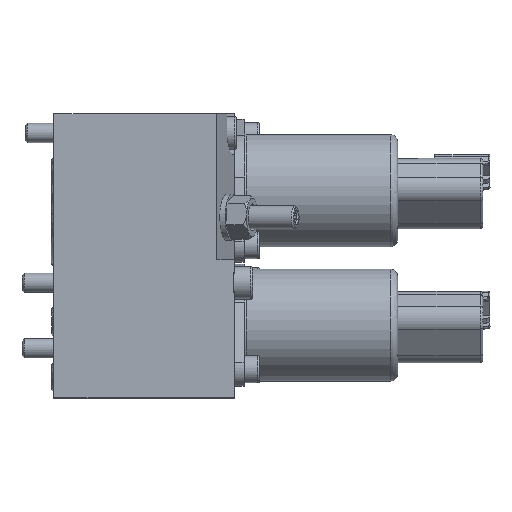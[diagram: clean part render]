
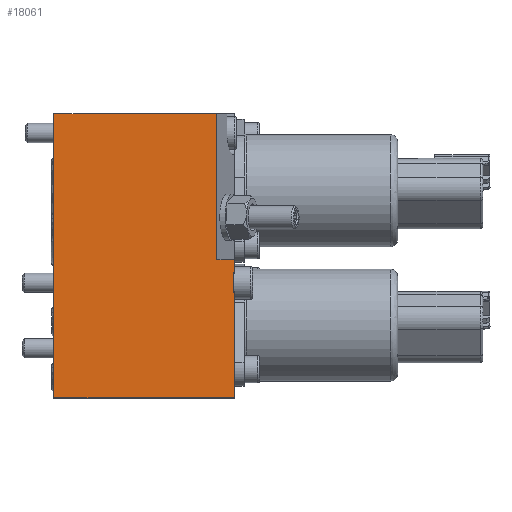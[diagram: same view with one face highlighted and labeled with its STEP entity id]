
A CAD part, top view. The second image highlights one B-rep face of the part: STEP entity #18061.
In plain terms, the highlighted planar face has unit normal (0, 0, 1).
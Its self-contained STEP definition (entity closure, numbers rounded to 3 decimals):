
#2328 = DIRECTION ( 'NONE',  ( 0., 1., 0. ) ) ;
#4084 = VECTOR ( 'NONE', #2328, 1000. ) ;
#5126 = EDGE_CURVE ( 'NONE', #20891, #33290, #46108, .T. ) ;
#6153 = EDGE_CURVE ( 'NONE', #16672, #19760, #30223, .T. ) ;
#6346 = PLANE ( 'NONE',  #16107 ) ;
#6908 = CARTESIAN_POINT ( 'NONE',  ( 47., -41.709, 54. ) ) ;
#7087 = DIRECTION ( 'NONE',  ( -1., 0., 0. ) ) ;
#7738 = VECTOR ( 'NONE', #8089, 1000. ) ;
#7844 = LINE ( 'NONE', #22783, #7738 ) ;
#8089 = DIRECTION ( 'NONE',  ( 1., 0., 0. ) ) ;
#8125 = ORIENTED_EDGE ( 'NONE', *, *, #16286, .F. ) ;
#10180 = CARTESIAN_POINT ( 'NONE',  ( 0., 0., 54. ) ) ;
#10560 = ORIENTED_EDGE ( 'NONE', *, *, #13535, .F. ) ;
#10562 = ORIENTED_EDGE ( 'NONE', *, *, #14035, .F. ) ;
#10576 = DIRECTION ( 'NONE',  ( 0., 1., 0. ) ) ;
#11042 = DIRECTION ( 'NONE',  ( 0., 1., 0. ) ) ;
#11086 = VECTOR ( 'NONE', #23797, 1000. ) ;
#11294 = ORIENTED_EDGE ( 'NONE', *, *, #12936, .F. ) ;
#12634 = VECTOR ( 'NONE', #7087, 1000. ) ;
#12742 = CARTESIAN_POINT ( 'NONE',  ( 47., -38., 54. ) ) ;
#12936 = EDGE_CURVE ( 'NONE', #21703, #29051, #46767, .T. ) ;
#13535 = EDGE_CURVE ( 'NONE', #43172, #19760, #7844, .T. ) ;
#13611 = CARTESIAN_POINT ( 'NONE',  ( 46.7, 0., 54. ) ) ;
#13735 = LINE ( 'NONE', #25480, #38079 ) ;
#13901 = DIRECTION ( 'NONE',  ( -1., 0., 0. ) ) ;
#14035 = EDGE_CURVE ( 'NONE', #29051, #43172, #46483, .T. ) ;
#14723 = CARTESIAN_POINT ( 'NONE',  ( 0., -74., 54. ) ) ;
#16107 = AXIS2_PLACEMENT_3D ( 'NONE', #35636, #39920, #47125 ) ;
#16286 = EDGE_CURVE ( 'NONE', #30753, #21234, #30974, .T. ) ;
#16542 = EDGE_CURVE ( 'NONE', #41834, #20891, #32533, .T. ) ;
#16614 = EDGE_LOOP ( 'NONE', ( #27642, #31578, #27765, #37572, #40124, #10560, #10562, #11294, #39409, #8125 ) ) ;
#16672 = VERTEX_POINT ( 'NONE', #33497 ) ;
#17065 = VECTOR ( 'NONE', #11042, 1000. ) ;
#18061 = ADVANCED_FACE ( 'NONE', ( #32032 ), #6346, .T. ) ;
#18885 = CARTESIAN_POINT ( 'NONE',  ( 42.414, 0., 54. ) ) ;
#19760 = VERTEX_POINT ( 'NONE', #45189 ) ;
#20870 = VECTOR ( 'NONE', #28260, 1000. ) ;
#20891 = VERTEX_POINT ( 'NONE', #10180 ) ;
#20970 = VECTOR ( 'NONE', #27884, 1000. ) ;
#21234 = VERTEX_POINT ( 'NONE', #28267 ) ;
#21703 = VERTEX_POINT ( 'NONE', #38318 ) ;
#22423 = LINE ( 'NONE', #14723, #32168 ) ;
#22783 = CARTESIAN_POINT ( 'NONE',  ( 47., -46.291, 54. ) ) ;
#23588 = EDGE_CURVE ( 'NONE', #33290, #16672, #22423, .T. ) ;
#23797 = DIRECTION ( 'NONE',  ( 1., 0., 0. ) ) ;
#24202 = CARTESIAN_POINT ( 'NONE',  ( 46.7, -41.709, 54. ) ) ;
#24889 = CARTESIAN_POINT ( 'NONE',  ( 0., 0., 54. ) ) ;
#25109 = EDGE_CURVE ( 'NONE', #21703, #21234, #13735, .T. ) ;
#25221 = LINE ( 'NONE', #42953, #17065 ) ;
#25480 = CARTESIAN_POINT ( 'NONE',  ( 47., 0., 54. ) ) ;
#27642 = ORIENTED_EDGE ( 'NONE', *, *, #29866, .T. ) ;
#27765 = ORIENTED_EDGE ( 'NONE', *, *, #5126, .T. ) ;
#27884 = DIRECTION ( 'NONE',  ( 0., -1., 0. ) ) ;
#28260 = DIRECTION ( 'NONE',  ( 0., -1., 0. ) ) ;
#28267 = CARTESIAN_POINT ( 'NONE',  ( 47., -38., 54. ) ) ;
#28430 = VECTOR ( 'NONE', #13901, 1000. ) ;
#29051 = VERTEX_POINT ( 'NONE', #24202 ) ;
#29866 = EDGE_CURVE ( 'NONE', #30753, #41834, #25221, .T. ) ;
#30223 = LINE ( 'NONE', #37637, #4084 ) ;
#30753 = VERTEX_POINT ( 'NONE', #33913 ) ;
#30974 = LINE ( 'NONE', #12742, #11086 ) ;
#31578 = ORIENTED_EDGE ( 'NONE', *, *, #16542, .T. ) ;
#32032 = FACE_OUTER_BOUND ( 'NONE', #16614, .T. ) ;
#32168 = VECTOR ( 'NONE', #43963, 1000. ) ;
#32533 = LINE ( 'NONE', #24889, #12634 ) ;
#33290 = VERTEX_POINT ( 'NONE', #41762 ) ;
#33497 = CARTESIAN_POINT ( 'NONE',  ( 47., -74., 54. ) ) ;
#33913 = CARTESIAN_POINT ( 'NONE',  ( 42.414, -38., 54. ) ) ;
#35636 = CARTESIAN_POINT ( 'NONE',  ( 0., 0., 54. ) ) ;
#35941 = CARTESIAN_POINT ( 'NONE',  ( 46.7, -46.291, 54. ) ) ;
#37572 = ORIENTED_EDGE ( 'NONE', *, *, #23588, .T. ) ;
#37637 = CARTESIAN_POINT ( 'NONE',  ( 47., 0., 54. ) ) ;
#38079 = VECTOR ( 'NONE', #10576, 1000. ) ;
#38318 = CARTESIAN_POINT ( 'NONE',  ( 47., -41.709, 54. ) ) ;
#39409 = ORIENTED_EDGE ( 'NONE', *, *, #25109, .T. ) ;
#39920 = DIRECTION ( 'NONE',  ( 0., 0., 1. ) ) ;
#40124 = ORIENTED_EDGE ( 'NONE', *, *, #6153, .T. ) ;
#41762 = CARTESIAN_POINT ( 'NONE',  ( 0., -74., 54. ) ) ;
#41834 = VERTEX_POINT ( 'NONE', #18885 ) ;
#42953 = CARTESIAN_POINT ( 'NONE',  ( 42.414, -38., 54. ) ) ;
#43172 = VERTEX_POINT ( 'NONE', #35941 ) ;
#43963 = DIRECTION ( 'NONE',  ( 1., 0., 0. ) ) ;
#45189 = CARTESIAN_POINT ( 'NONE',  ( 47., -46.291, 54. ) ) ;
#46108 = LINE ( 'NONE', #46354, #20970 ) ;
#46354 = CARTESIAN_POINT ( 'NONE',  ( 0., 0., 54. ) ) ;
#46483 = LINE ( 'NONE', #13611, #20870 ) ;
#46767 = LINE ( 'NONE', #6908, #28430 ) ;
#47125 = DIRECTION ( 'NONE',  ( 1., 0., 0. ) ) ;
